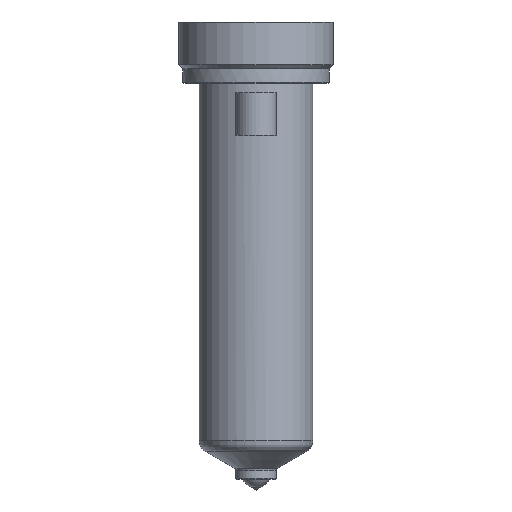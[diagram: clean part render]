
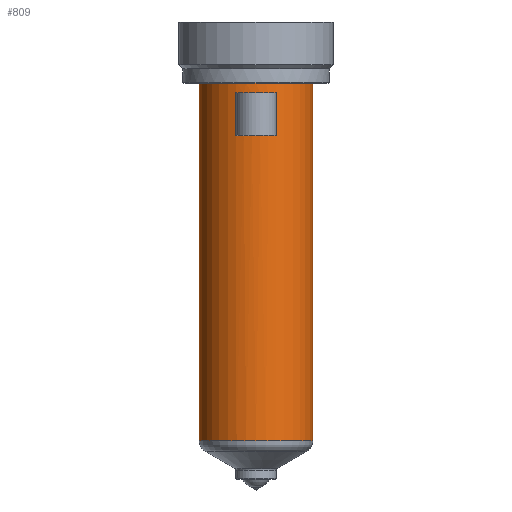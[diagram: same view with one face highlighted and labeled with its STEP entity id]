
A CAD part, top view. The second image highlights one B-rep face of the part: STEP entity #809.
In plain terms, the highlighted cylindrical face has radius 14 mm (diameter 28 mm), a partial arc.
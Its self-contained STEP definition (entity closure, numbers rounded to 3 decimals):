
#195=DIRECTION('',(0.,-1.,0.));
#196=VECTOR('',#195,87.893);
#197=CARTESIAN_POINT('',(14.,0.,0.));
#198=LINE('',#197,#196);
#199=CARTESIAN_POINT('',(0.,-87.893,0.));
#200=DIRECTION('',(0.,1.,0.));
#201=DIRECTION('',(-1.,0.,0.));
#202=AXIS2_PLACEMENT_3D('',#199,#200,#201);
#204=DIRECTION('',(0.,1.,0.));
#205=VECTOR('',#204,87.893);
#206=CARTESIAN_POINT('',(-14.,-87.893,0.));
#207=LINE('',#206,#205);
#208=CARTESIAN_POINT('',(0.,0.,0.));
#209=DIRECTION('',(0.,1.,0.));
#210=DIRECTION('',(-1.,0.,0.));
#211=AXIS2_PLACEMENT_3D('',#208,#209,#210);
#375=DIRECTION('',(0.,-1.,0.));
#376=VECTOR('',#375,10.5);
#377=CARTESIAN_POINT('',(-5.,-2.5,13.077));
#378=LINE('',#377,#376);
#383=CARTESIAN_POINT('',(0.,-13.,0.));
#384=DIRECTION('',(0.,1.,0.));
#385=DIRECTION('',(-0.357,0.,0.934));
#386=AXIS2_PLACEMENT_3D('',#383,#384,#385);
#418=CARTESIAN_POINT('',(0.,-2.5,0.));
#419=DIRECTION('',(0.,-1.,0.));
#420=DIRECTION('',(0.357,0.,0.934));
#421=AXIS2_PLACEMENT_3D('',#418,#419,#420);
#423=DIRECTION('',(0.,-1.,0.));
#424=VECTOR('',#423,10.5);
#425=CARTESIAN_POINT('',(5.,-2.5,13.077));
#426=LINE('',#425,#424);
#484=CARTESIAN_POINT('',(-14.,0.,0.));
#485=CARTESIAN_POINT('',(14.,0.,0.));
#486=VERTEX_POINT('',#484);
#487=VERTEX_POINT('',#485);
#496=CARTESIAN_POINT('',(5.,-2.5,13.077));
#497=VERTEX_POINT('',#496);
#498=CARTESIAN_POINT('',(-5.,-2.5,13.077));
#499=VERTEX_POINT('',#498);
#536=CARTESIAN_POINT('',(14.,-87.893,0.));
#537=VERTEX_POINT('',#536);
#546=CARTESIAN_POINT('',(-14.,-87.893,0.));
#547=VERTEX_POINT('',#546);
#568=CARTESIAN_POINT('',(-5.,-13.,13.077));
#569=CARTESIAN_POINT('',(5.,-13.,13.077));
#570=VERTEX_POINT('',#568);
#571=VERTEX_POINT('',#569);
#787=CARTESIAN_POINT('',(0.,16.4,0.));
#788=DIRECTION('',(0.,-1.,0.));
#789=DIRECTION('',(-1.,0.,0.));
#790=AXIS2_PLACEMENT_3D('',#787,#788,#789);
#791=CYLINDRICAL_SURFACE('',#790,14.);
#792=ORIENTED_EDGE('',*,*,#781,.T.);
#794=ORIENTED_EDGE('',*,*,#793,.F.);
#795=ORIENTED_EDGE('',*,*,#777,.T.);
#796=ORIENTED_EDGE('',*,*,#767,.T.);
#797=EDGE_LOOP('',(#792,#794,#795,#796));
#798=FACE_OUTER_BOUND('',#797,.F.);
#800=ORIENTED_EDGE('',*,*,#799,.T.);
#802=ORIENTED_EDGE('',*,*,#801,.T.);
#804=ORIENTED_EDGE('',*,*,#803,.F.);
#806=ORIENTED_EDGE('',*,*,#805,.T.);
#807=EDGE_LOOP('',(#800,#802,#804,#806));
#808=FACE_BOUND('',#807,.F.);
#809=ADVANCED_FACE('',(#798,#808),#791,.T.);
#203=CIRCLE('',#202,14.);
#212=CIRCLE('',#211,14.);
#387=CIRCLE('',#386,14.);
#422=CIRCLE('',#421,14.);
#767=EDGE_CURVE('',#486,#487,#212,.T.);
#777=EDGE_CURVE('',#547,#486,#207,.T.);
#781=EDGE_CURVE('',#487,#537,#198,.T.);
#793=EDGE_CURVE('',#547,#537,#203,.T.);
#799=EDGE_CURVE('',#499,#570,#378,.T.);
#801=EDGE_CURVE('',#570,#571,#387,.T.);
#803=EDGE_CURVE('',#497,#571,#426,.T.);
#805=EDGE_CURVE('',#497,#499,#422,.T.);
